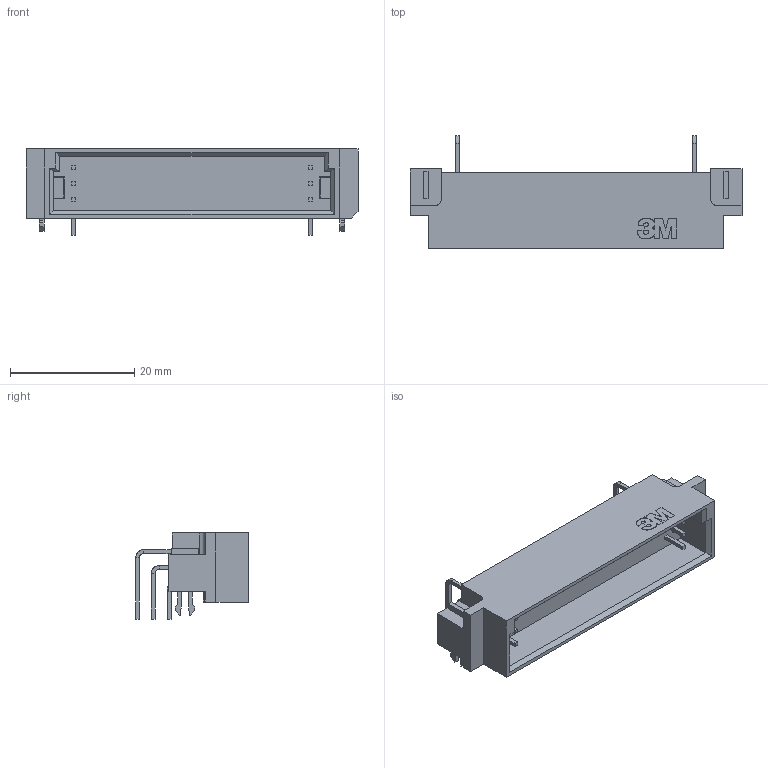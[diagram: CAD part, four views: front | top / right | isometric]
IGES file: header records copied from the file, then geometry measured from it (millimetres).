
Global section: file name: S:\ws74937_bu\E_Drive\work_here\Project Support\WebModels\DIN-XXX\DIN-048-CXC-XX\DIN-48CPC-RR1_iges.igs; native system: NX V7.5; preprocessor: SIEMENS PLM Software NX 7.5; date: 20131105.142933; units: millimetre
Bounding box: 53.34 x 18.11 x 13.88 mm (x, y, z)
Surface area: 3685.7 mm2 (no closed solid volume)
Topology: 0 solids, 0 shells, 247 faces, 1266 edges, 1266 vertices
Faces by surface type: bspline 247
